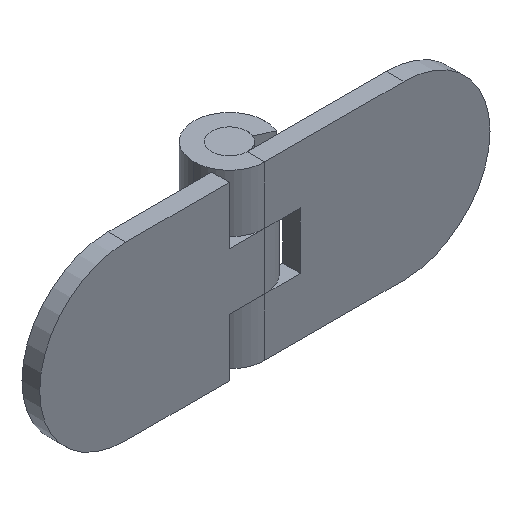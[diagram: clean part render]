
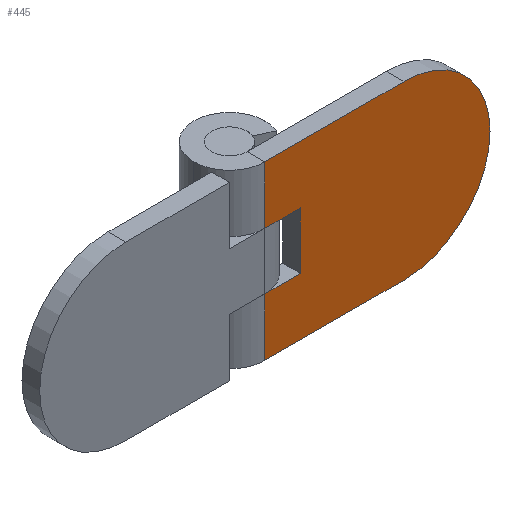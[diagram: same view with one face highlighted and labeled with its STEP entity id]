
A CAD part, isometric view. The second image highlights one B-rep face of the part: STEP entity #445.
In plain terms, the highlighted planar face has unit normal (0, -1, 0).
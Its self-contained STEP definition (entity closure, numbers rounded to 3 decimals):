
#1 = CIRCLE ( 'NONE', #1400, 4.85 ) ;
#21 = VERTEX_POINT ( 'NONE', #603 ) ;
#53 = ORIENTED_EDGE ( 'NONE', *, *, #911, .F. ) ;
#83 = LINE ( 'NONE', #333, #395 ) ;
#97 = CARTESIAN_POINT ( 'NONE',  ( 10.7, -2., 6.45 ) ) ;
#98 = PLANE ( 'NONE',  #601 ) ;
#100 = DIRECTION ( 'NONE',  ( 0., 0., -1. ) ) ;
#212 = CARTESIAN_POINT ( 'NONE',  ( 10.7, -2., 3.25 ) ) ;
#226 = CARTESIAN_POINT ( 'NONE',  ( 12.7, -2., 9.7 ) ) ;
#243 = CARTESIAN_POINT ( 'NONE',  ( 12.7, -2., 9.7 ) ) ;
#252 = ORIENTED_EDGE ( 'NONE', *, *, #1280, .F. ) ;
#275 = VECTOR ( 'NONE', #100, 1000. ) ;
#296 = CARTESIAN_POINT ( 'NONE',  ( 12.7, -2., 0. ) ) ;
#305 = VECTOR ( 'NONE', #723, 1000. ) ;
#321 = VECTOR ( 'NONE', #1144, 1000. ) ;
#328 = VERTEX_POINT ( 'NONE', #666 ) ;
#333 = CARTESIAN_POINT ( 'NONE',  ( 10.7, -2., 6.45 ) ) ;
#342 = CARTESIAN_POINT ( 'NONE',  ( 12.7, -2., 9.7 ) ) ;
#360 = CARTESIAN_POINT ( 'NONE',  ( 4.85, -2., 4.85 ) ) ;
#395 = VECTOR ( 'NONE', #558, 1000. ) ;
#399 = VECTOR ( 'NONE', #516, 1000. ) ;
#445 = ADVANCED_FACE ( 'NONE', ( #692 ), #98, .F. ) ;
#454 = DIRECTION ( 'NONE',  ( 1., 0., 0. ) ) ;
#475 = DIRECTION ( 'NONE',  ( 0., 1., 0. ) ) ;
#516 = DIRECTION ( 'NONE',  ( 1., 0., 0. ) ) ;
#558 = DIRECTION ( 'NONE',  ( -1., 0., 0. ) ) ;
#564 = EDGE_CURVE ( 'NONE', #1325, #328, #1498, .T. ) ;
#585 = ORIENTED_EDGE ( 'NONE', *, *, #1311, .F. ) ;
#588 = EDGE_LOOP ( 'NONE', ( #974, #53, #585, #252, #1103, #633, #944, #773 ) ) ;
#601 = AXIS2_PLACEMENT_3D ( 'NONE', #243, #475, #708 ) ;
#603 = CARTESIAN_POINT ( 'NONE',  ( 10.7, -2., 6.45 ) ) ;
#633 = ORIENTED_EDGE ( 'NONE', *, *, #758, .T. ) ;
#666 = CARTESIAN_POINT ( 'NONE',  ( 12.7, -2., 3.25 ) ) ;
#675 = VERTEX_POINT ( 'NONE', #1106 ) ;
#692 = FACE_OUTER_BOUND ( 'NONE', #588, .T. ) ;
#696 = CARTESIAN_POINT ( 'NONE',  ( 10.7, -2., 3.25 ) ) ;
#708 = DIRECTION ( 'NONE',  ( 0., 0., 1. ) ) ;
#723 = DIRECTION ( 'NONE',  ( 0., 0., -1. ) ) ;
#758 = EDGE_CURVE ( 'NONE', #1057, #828, #1208, .T. ) ;
#773 = ORIENTED_EDGE ( 'NONE', *, *, #564, .F. ) ;
#786 = VECTOR ( 'NONE', #1502, 1000. ) ;
#828 = VERTEX_POINT ( 'NONE', #1237 ) ;
#862 = LINE ( 'NONE', #1433, #305 ) ;
#911 = EDGE_CURVE ( 'NONE', #675, #21, #83, .T. ) ;
#932 = CARTESIAN_POINT ( 'NONE',  ( 4.85, -2., 9.7 ) ) ;
#944 = ORIENTED_EDGE ( 'NONE', *, *, #1463, .F. ) ;
#974 = ORIENTED_EDGE ( 'NONE', *, *, #1254, .F. ) ;
#979 = VERTEX_POINT ( 'NONE', #226 ) ;
#1031 = LINE ( 'NONE', #1053, #786 ) ;
#1053 = CARTESIAN_POINT ( 'NONE',  ( 12.7, -2., 9.7 ) ) ;
#1057 = VERTEX_POINT ( 'NONE', #1184 ) ;
#1103 = ORIENTED_EDGE ( 'NONE', *, *, #1251, .F. ) ;
#1106 = CARTESIAN_POINT ( 'NONE',  ( 12.7, -2., 6.45 ) ) ;
#1131 = VERTEX_POINT ( 'NONE', #932 ) ;
#1144 = DIRECTION ( 'NONE',  ( 1., 0., 0. ) ) ;
#1154 = DIRECTION ( 'NONE',  ( 0., 0., -1. ) ) ;
#1184 = CARTESIAN_POINT ( 'NONE',  ( 4.85, -2., 0. ) ) ;
#1208 = LINE ( 'NONE', #296, #399 ) ;
#1237 = CARTESIAN_POINT ( 'NONE',  ( 12.7, -2., 0. ) ) ;
#1251 = EDGE_CURVE ( 'NONE', #1057, #1131, #1, .T. ) ;
#1254 = EDGE_CURVE ( 'NONE', #21, #1325, #1511, .T. ) ;
#1257 = VECTOR ( 'NONE', #454, 1000. ) ;
#1264 = DIRECTION ( 'NONE',  ( 0., 1., 0. ) ) ;
#1280 = EDGE_CURVE ( 'NONE', #1131, #979, #1507, .T. ) ;
#1311 = EDGE_CURVE ( 'NONE', #979, #675, #1031, .T. ) ;
#1325 = VERTEX_POINT ( 'NONE', #696 ) ;
#1400 = AXIS2_PLACEMENT_3D ( 'NONE', #360, #1264, #1154 ) ;
#1433 = CARTESIAN_POINT ( 'NONE',  ( 12.7, -2., 9.7 ) ) ;
#1463 = EDGE_CURVE ( 'NONE', #328, #828, #862, .T. ) ;
#1498 = LINE ( 'NONE', #212, #1257 ) ;
#1502 = DIRECTION ( 'NONE',  ( 0., 0., -1. ) ) ;
#1507 = LINE ( 'NONE', #342, #321 ) ;
#1511 = LINE ( 'NONE', #97, #275 ) ;
